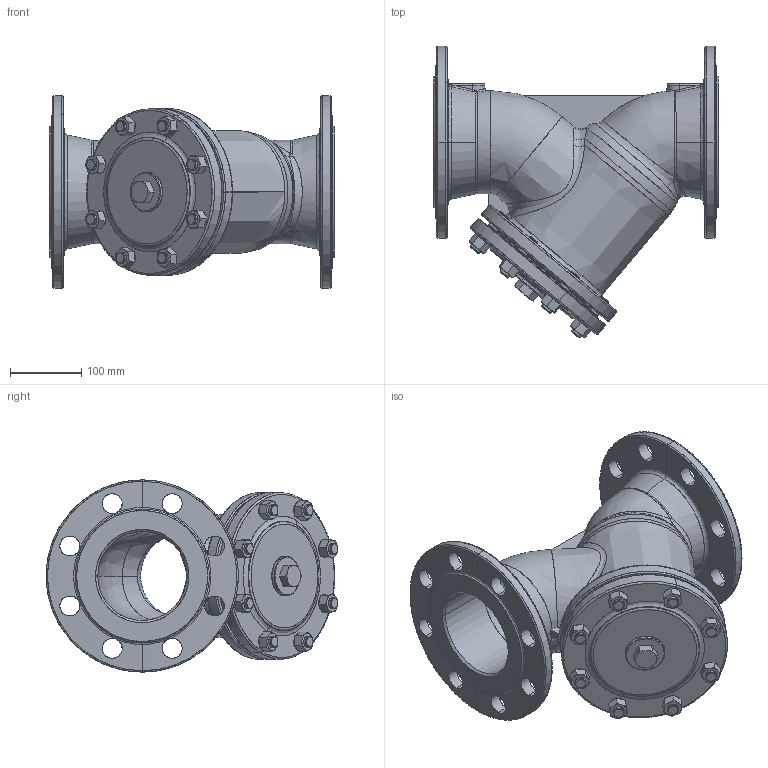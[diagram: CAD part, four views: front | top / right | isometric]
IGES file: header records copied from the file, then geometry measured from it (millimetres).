
Start section: SolidWorks IGES file using analytic representation for surfaces
Global section: file name: E:\SOLID WORKS 98\821\821_DN125_PN25.IGS; native system: SolidWorks 2010; preprocessor: SolidWorks 2010; author: alisowsk; date: 100113.082433; units: millimetre
Bounding box: 400 x 409.85 x 270 mm (x, y, z)
Surface area: 839563.5 mm2 (no closed solid volume)
Topology: 0 solids, 0 shells, 851 faces, 13181 edges, 13181 vertices
Faces by surface type: revolution 467, bspline 384
